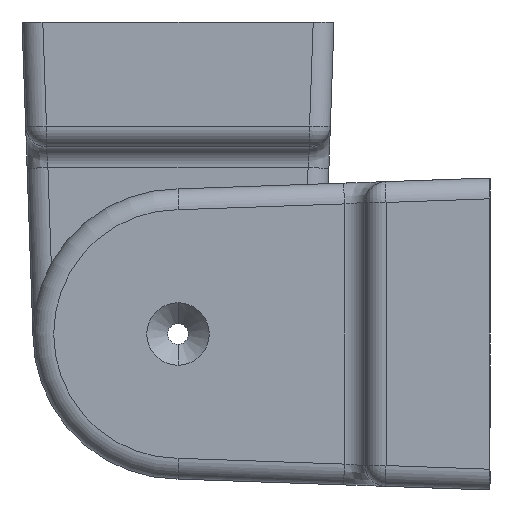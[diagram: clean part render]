
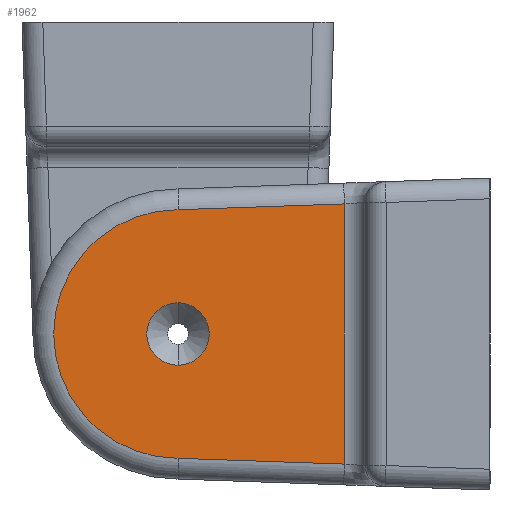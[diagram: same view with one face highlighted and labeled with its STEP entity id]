
A CAD part, left-side view. The second image highlights one B-rep face of the part: STEP entity #1962.
In plain terms, the highlighted planar face has unit normal (-1, 0, 0).
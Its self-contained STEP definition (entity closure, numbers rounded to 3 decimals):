
#12 = DIRECTION ( 'NONE',  ( 0., 0.999, -0.035 ) ) ;
#27 = ORIENTED_EDGE ( 'NONE', *, *, #538, .T. ) ;
#33 = CARTESIAN_POINT ( 'NONE',  ( -66., 0., 0. ) ) ;
#44 = CARTESIAN_POINT ( 'NONE',  ( -66., -0.034, -11.952 ) ) ;
#119 = DIRECTION ( 'NONE',  ( 0., 0., -1. ) ) ;
#164 = VERTEX_POINT ( 'NONE', #1575 ) ;
#166 = CIRCLE ( 'NONE', #1974, 11.952 ) ;
#217 = VERTEX_POINT ( 'NONE', #492 ) ;
#222 = EDGE_CURVE ( 'NONE', #1340, #164, #1130, .T. ) ;
#267 = ORIENTED_EDGE ( 'NONE', *, *, #1663, .T. ) ;
#297 = LINE ( 'NONE', #1022, #1997 ) ;
#344 = CARTESIAN_POINT ( 'NONE',  ( -66., 0., 3. ) ) ;
#384 = CIRCLE ( 'NONE', #1716, 11.952 ) ;
#454 = DIRECTION ( 'NONE',  ( 1., 0., 0. ) ) ;
#489 = ORIENTED_EDGE ( 'NONE', *, *, #697, .T. ) ;
#492 = CARTESIAN_POINT ( 'NONE',  ( -66., 0., -11.952 ) ) ;
#503 = FACE_OUTER_BOUND ( 'NONE', #1413, .T. ) ;
#511 = EDGE_CURVE ( 'NONE', #841, #909, #2314, .T. ) ;
#521 = CIRCLE ( 'NONE', #593, 3. ) ;
#538 = EDGE_CURVE ( 'NONE', #909, #1655, #1059, .T. ) ;
#560 = CARTESIAN_POINT ( 'NONE',  ( -66., 0., 0. ) ) ;
#593 = AXIS2_PLACEMENT_3D ( 'NONE', #1664, #1654, #2204 ) ;
#647 = CARTESIAN_POINT ( 'NONE',  ( -66., -0.034, 11.952 ) ) ;
#697 = EDGE_CURVE ( 'NONE', #164, #1340, #521, .T. ) ;
#716 = VERTEX_POINT ( 'NONE', #963 ) ;
#781 = VECTOR ( 'NONE', #1988, 1000. ) ;
#833 = EDGE_CURVE ( 'NONE', #1174, #841, #297, .T. ) ;
#841 = VERTEX_POINT ( 'NONE', #1031 ) ;
#909 = VERTEX_POINT ( 'NONE', #1795 ) ;
#948 = DIRECTION ( 'NONE',  ( -1., 0., 0. ) ) ;
#963 = CARTESIAN_POINT ( 'NONE',  ( -66., 0., 11.952 ) ) ;
#1022 = CARTESIAN_POINT ( 'NONE',  ( -66., -18.084, -12.583 ) ) ;
#1031 = CARTESIAN_POINT ( 'NONE',  ( -66., -16., -12.51 ) ) ;
#1059 = LINE ( 'NONE', #1642, #1245 ) ;
#1061 = ORIENTED_EDGE ( 'NONE', *, *, #511, .T. ) ;
#1090 = AXIS2_PLACEMENT_3D ( 'NONE', #1783, #2147, #1598 ) ;
#1094 = EDGE_CURVE ( 'NONE', #1655, #716, #384, .T. ) ;
#1130 = CIRCLE ( 'NONE', #1090, 3. ) ;
#1174 = VERTEX_POINT ( 'NONE', #44 ) ;
#1202 = PLANE ( 'NONE',  #1613 ) ;
#1216 = DIRECTION ( 'NONE',  ( 0., -0.999, -0.035 ) ) ;
#1230 = ORIENTED_EDGE ( 'NONE', *, *, #1094, .T. ) ;
#1245 = VECTOR ( 'NONE', #12, 1000. ) ;
#1294 = DIRECTION ( 'NONE',  ( -1., 0., 0. ) ) ;
#1334 = EDGE_CURVE ( 'NONE', #217, #1174, #1677, .T. ) ;
#1337 = AXIS2_PLACEMENT_3D ( 'NONE', #560, #1294, #1830 ) ;
#1340 = VERTEX_POINT ( 'NONE', #344 ) ;
#1413 = EDGE_LOOP ( 'NONE', ( #1061, #27, #1230, #267, #1427, #1733 ) ) ;
#1427 = ORIENTED_EDGE ( 'NONE', *, *, #1334, .T. ) ;
#1480 = EDGE_LOOP ( 'NONE', ( #1557, #489 ) ) ;
#1557 = ORIENTED_EDGE ( 'NONE', *, *, #222, .T. ) ;
#1559 = CARTESIAN_POINT ( 'NONE',  ( -66., -18., -15. ) ) ;
#1575 = CARTESIAN_POINT ( 'NONE',  ( -66., 0., -3. ) ) ;
#1598 = DIRECTION ( 'NONE',  ( 0., 0., -1. ) ) ;
#1613 = AXIS2_PLACEMENT_3D ( 'NONE', #1559, #454, #119 ) ;
#1642 = CARTESIAN_POINT ( 'NONE',  ( -66., -17.038, 12.546 ) ) ;
#1654 = DIRECTION ( 'NONE',  ( 1., 0., 0. ) ) ;
#1655 = VERTEX_POINT ( 'NONE', #647 ) ;
#1663 = EDGE_CURVE ( 'NONE', #716, #217, #166, .T. ) ;
#1664 = CARTESIAN_POINT ( 'NONE',  ( -66., 0., 0. ) ) ;
#1677 = CIRCLE ( 'NONE', #1337, 11.952 ) ;
#1716 = AXIS2_PLACEMENT_3D ( 'NONE', #33, #948, #2005 ) ;
#1733 = ORIENTED_EDGE ( 'NONE', *, *, #833, .T. ) ;
#1761 = DIRECTION ( 'NONE',  ( 0., 0., -1. ) ) ;
#1783 = CARTESIAN_POINT ( 'NONE',  ( -66., 0., 0. ) ) ;
#1795 = CARTESIAN_POINT ( 'NONE',  ( -66., -16., 12.51 ) ) ;
#1830 = DIRECTION ( 'NONE',  ( 0., 0., -1. ) ) ;
#1925 = CARTESIAN_POINT ( 'NONE',  ( -66., 0., 0. ) ) ;
#1962 = ADVANCED_FACE ( 'NONE', ( #2134, #503 ), #1202, .F. ) ;
#1974 = AXIS2_PLACEMENT_3D ( 'NONE', #1925, #2109, #1761 ) ;
#1988 = DIRECTION ( 'NONE',  ( 0., 0., 1. ) ) ;
#1997 = VECTOR ( 'NONE', #1216, 1000. ) ;
#2005 = DIRECTION ( 'NONE',  ( 0., 0., -1. ) ) ;
#2109 = DIRECTION ( 'NONE',  ( -1., 0., 0. ) ) ;
#2134 = FACE_BOUND ( 'NONE', #1480, .T. ) ;
#2147 = DIRECTION ( 'NONE',  ( 1., 0., 0. ) ) ;
#2204 = DIRECTION ( 'NONE',  ( 0., 0., -1. ) ) ;
#2314 = LINE ( 'NONE', #2337, #781 ) ;
#2337 = CARTESIAN_POINT ( 'NONE',  ( -66., -16., 14.581 ) ) ;
